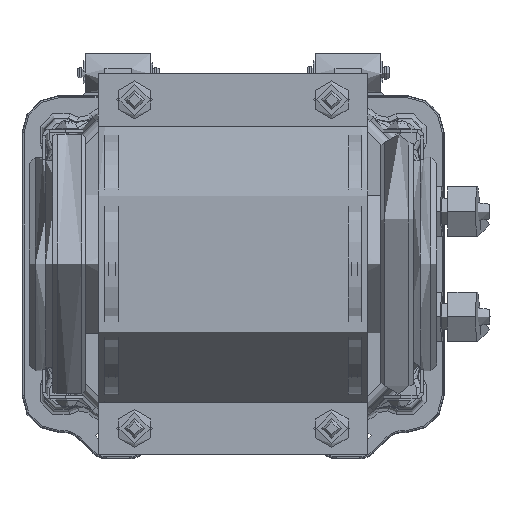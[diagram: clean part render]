
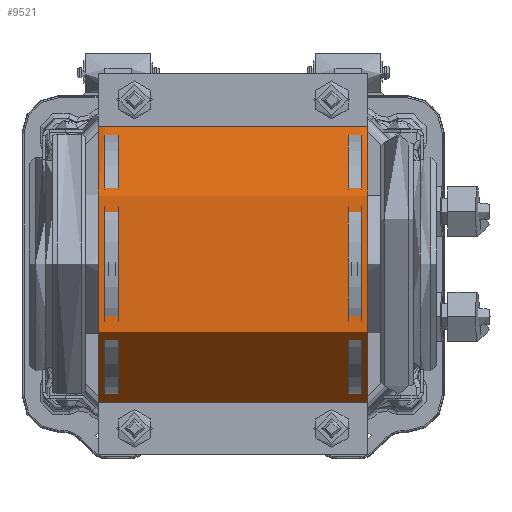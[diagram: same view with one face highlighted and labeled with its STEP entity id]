
A CAD part, front view. The second image highlights one B-rep face of the part: STEP entity #9521.
In plain terms, the highlighted cylindrical face has radius 42 mm (diameter 84 mm), a partial arc.
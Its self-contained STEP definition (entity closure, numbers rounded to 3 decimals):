
#9521=ADVANCED_FACE('',(#27148),#27150,.T.);
#27148=FACE_BOUND('',#27149,.T.);
#27149=EDGE_LOOP('',(#36996,#36997,#36998,#36999,#37000,#37001,#37002,#37003,#37004,
#37005));
#27150=CYLINDRICAL_SURFACE('',#27151,42.);
#27151=AXIS2_PLACEMENT_3D('',#27152,#27153,#27154);
#27152=CARTESIAN_POINT('',(41.,0.,-0.));
#27153=DIRECTION('',(-1.,0.,0.));
#27154=DIRECTION('',(0.,0.,-1.));
#36996=ORIENTED_EDGE('',*,*,#41887,.F.);
#36997=ORIENTED_EDGE('',*,*,#41789,.F.);
#36998=ORIENTED_EDGE('',*,*,#41877,.T.);
#36999=ORIENTED_EDGE('',*,*,#41888,.F.);
#37000=ORIENTED_EDGE('',*,*,#41828,.T.);
#37001=ORIENTED_EDGE('',*,*,#41864,.F.);
#37002=ORIENTED_EDGE('',*,*,#41838,.T.);
#37003=ORIENTED_EDGE('',*,*,#41889,.T.);
#37004=ORIENTED_EDGE('',*,*,#41868,.T.);
#37005=ORIENTED_EDGE('',*,*,#41770,.F.);
#41770=EDGE_CURVE('',#46053,#46055,#46056,.T.);
#41789=EDGE_CURVE('',#46082,#46084,#46085,.F.);
#41828=EDGE_CURVE('',#46146,#46014,#46147,.F.);
#41838=EDGE_CURVE('',#46006,#46162,#46164,.F.);
#41864=EDGE_CURVE('',#46006,#46014,#46204,.T.);
#41868=EDGE_CURVE('',#46210,#46055,#46211,.T.);
#41877=EDGE_CURVE('',#46082,#46220,#46222,.T.);
#41887=EDGE_CURVE('',#46084,#46053,#46238,.F.);
#41888=EDGE_CURVE('',#46146,#46220,#46239,.T.);
#41889=EDGE_CURVE('',#46162,#46210,#46240,.T.);
#46006=VERTEX_POINT('',#59445);
#46014=VERTEX_POINT('',#59463);
#46053=VERTEX_POINT('',#59560);
#46055=VERTEX_POINT('',#59564);
#46056=CIRCLE('',#59565,42.);
#46082=VERTEX_POINT('',#59628);
#46084=VERTEX_POINT('',#59632);
#46085=CIRCLE('',#59633,42.);
#46146=VERTEX_POINT('',#61276);
#46147=LINE('',#61277,#61278);
#46162=VERTEX_POINT('',#61310);
#46164=LINE('',#61314,#61315);
#46204=LINE('',#61665,#61666);
#46210=VERTEX_POINT('',#61681);
#46211=LINE('',#61682,#61683);
#46220=VERTEX_POINT('',#61707);
#46222=LINE('',#61711,#61712);
#46238=LINE('',#61747,#61748);
#46239=CIRCLE('',#61750,42.);
#46240=CIRCLE('',#61754,42.);
#59445=CARTESIAN_POINT('',(39.,-1.,-41.988));
#59463=CARTESIAN_POINT('',(-39.,-1.,-41.988));
#59560=CARTESIAN_POINT('',(39.,-2.,41.952));
#59564=CARTESIAN_POINT('',(39.,-1.,41.988));
#59565=AXIS2_PLACEMENT_3D('',#59566,#59567,#59568);
#59566=CARTESIAN_POINT('',(39.,0.,0.));
#59567=DIRECTION('',(-1.,0.,0.));
#59568=DIRECTION('',(0.,-0.048,0.999));
#59628=CARTESIAN_POINT('',(-39.,-1.,41.988));
#59632=CARTESIAN_POINT('',(-39.,-2.,41.952));
#59633=AXIS2_PLACEMENT_3D('',#59634,#59635,#59636);
#59634=CARTESIAN_POINT('',(-39.,0.,0.));
#59635=DIRECTION('',(-1.,0.,0.));
#59636=DIRECTION('',(0.,-0.048,0.999));
#61276=CARTESIAN_POINT('',(-41.,-1.,-41.988));
#61277=CARTESIAN_POINT('',(-39.,-1.,-41.988));
#61278=VECTOR('',#61279,1.);
#61279=DIRECTION('',(-1.,0.,0.));
#61310=CARTESIAN_POINT('',(41.,-1.,-41.988));
#61314=CARTESIAN_POINT('',(41.,-1.,-41.988));
#61315=VECTOR('',#61316,1.);
#61316=DIRECTION('',(-1.,0.,0.));
#61665=CARTESIAN_POINT('',(39.,-1.,-41.988));
#61666=VECTOR('',#61667,1.);
#61667=DIRECTION('',(-1.,0.,0.));
#61681=CARTESIAN_POINT('',(41.,-1.,41.988));
#61682=CARTESIAN_POINT('',(41.,-1.,41.988));
#61683=VECTOR('',#61684,1.);
#61684=DIRECTION('',(-1.,0.,0.));
#61707=CARTESIAN_POINT('',(-41.,-1.,41.988));
#61711=CARTESIAN_POINT('',(-39.,-1.,41.988));
#61712=VECTOR('',#61713,1.);
#61713=DIRECTION('',(-1.,0.,0.));
#61747=CARTESIAN_POINT('',(39.,-2.,41.952));
#61748=VECTOR('',#61749,1.);
#61749=DIRECTION('',(-1.,0.,0.));
#61750=AXIS2_PLACEMENT_3D('',#61751,#61752,#61753);
#61751=CARTESIAN_POINT('',(-41.,0.,0.));
#61752=DIRECTION('',(-1.,0.,0.));
#61753=DIRECTION('',(0.,-0.024,-1.));
#61754=AXIS2_PLACEMENT_3D('',#61755,#61756,#61757);
#61755=CARTESIAN_POINT('',(41.,0.,0.));
#61756=DIRECTION('',(-1.,0.,0.));
#61757=DIRECTION('',(0.,-0.024,-1.));
